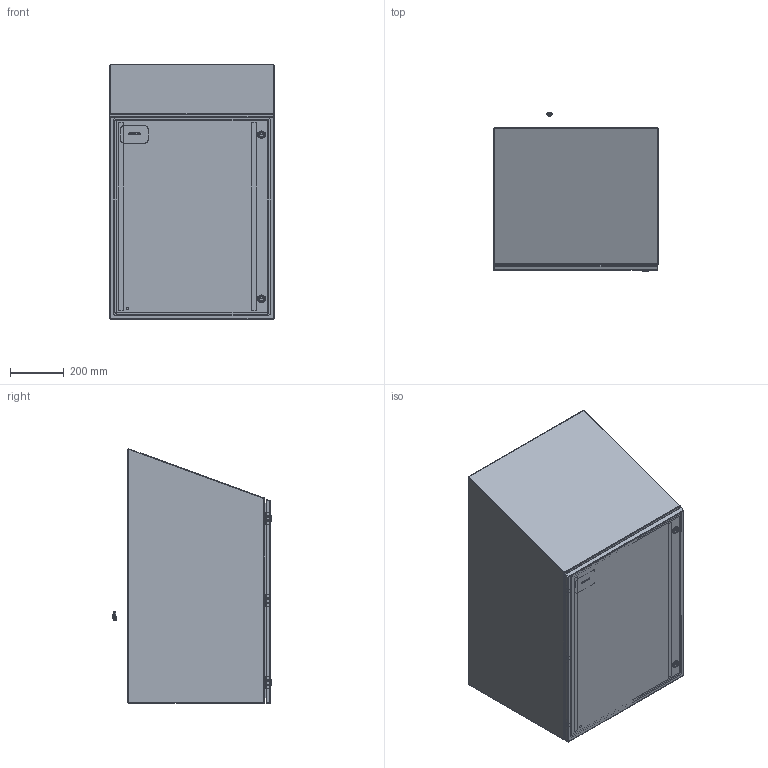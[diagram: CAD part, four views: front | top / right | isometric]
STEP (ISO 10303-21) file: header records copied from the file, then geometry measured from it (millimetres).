
FILE_DESCRIPTION(/* description */ ('Unknown'),/* implementation_level */ '2;1');
FILE_NAME(/* name */ 'ST302420LG',/* time_stamp */ '2016-12-16T14:57:40-05:00',/* author */ ('Unknown'),/* organization */ ('Unknown'),/* preprocessor_version */ 'ST-DEVELOPER v16.7',/* originating_system */ 'DEX',/* authorisation */ $);
FILE_SCHEMA (('AUTOMOTIVE_DESIGN {1 0 10303 214 3 1 1}'));
Length unit declared in the file: millimetre
Products named in the file (29): ST302420LG; KIT90669; NTS18006; BUL10136; WAM30022; SCC181205; NTS166105; NTS165305; NTS16535; BUL10020; QLB20183; PIN17645; HNG14573-1; STD26098; STD21878; COM56133-8; HNG14573-2; COM53844; LOK10000; LOK10000CAM; LOK10000SC; LOK10000NUT; COM70452-1; COM70452-2; COM70452-3; CAP02342; COM70219_oa_0
Assembly tree (42 placements, depth 3):
  ST302420LG
    KIT90669
      NTS18006
      BUL10136
      WAM30022
      SCC181205
      NTS166105
      NTS165305
      NTS16535
      BUL10020
    QLB20183
    PIN17645  x3
    HNG14573-1  x3
    STD26098  x4
    STD21878
    COM56133-8
      HNG14573-2  x3
      STD21878
      COM56133-8
      COM53844  x2
    LOK10000  x2
      LOK10000
      LOK10000CAM
      LOK10000SC
      LOK10000NUT
    COM70452-1
    COM70452-2
    COM70452-3
    CAP02342  x3
    COM70219_oa_0
Bounding box: 609.8 x 590.74 x 945.89 mm (x, y, z)
Volume: 5131219.7 mm3; surface area: 5665365.7 mm2
Topology: 40 solids, 41 shells, 1009 faces, 2417 edges, 1541 vertices
Faces by surface type: plane 542, cylinder 221, bspline 157, torus 55, cone 34
Full cylindrical faces by diameter (mm): 4.369 x3, 4.976 x1, 5.74 x3, 5.893 x4, 6.096 x3, 6.35 x3, 6.411 x1, 6.858 x4, 7.417 x3, 7.805 x1, 7.938 x6, 9.144 x2, 10.109 x9, 11.557 x6, 12.7 x4, 13.335 x2, 14.732 x1, 15.875 x6, 19.939 x4, 22.225 x1, 27.94 x2
Entity records: 22945 total; most frequent: CARTESIAN_POINT 6517, ORIENTED_EDGE 3378, DIRECTION 2821, EDGE_CURVE 1689, VERTEX_POINT 1104, LINE 1053, VECTOR 1053, AXIS2_PLACEMENT_3D 884
